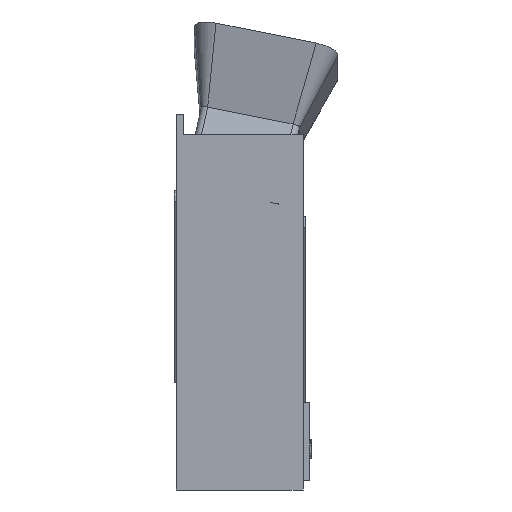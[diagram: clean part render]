
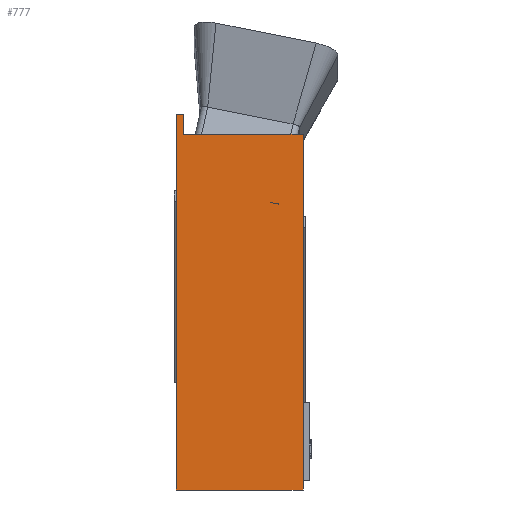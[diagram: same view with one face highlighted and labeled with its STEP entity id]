
A CAD part, left-side view. The second image highlights one B-rep face of the part: STEP entity #777.
In plain terms, the highlighted planar face has unit normal (-1, 0, 0).
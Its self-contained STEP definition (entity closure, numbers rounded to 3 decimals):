
#157 = PLANE('',#158);
#158 = AXIS2_PLACEMENT_3D('',#159,#160,#161);
#159 = CARTESIAN_POINT('',(0.,-8.99,0.));
#160 = DIRECTION('',(-0.,1.,0.));
#161 = DIRECTION('',(0.,0.,1.));
#213 = PLANE('',#214);
#214 = AXIS2_PLACEMENT_3D('',#215,#216,#217);
#215 = CARTESIAN_POINT('',(111.802,44.746,
    65.195));
#216 = DIRECTION('',(0.,-1.,0.));
#217 = DIRECTION('',(1.,0.,0.));
#463 = PLANE('',#464);
#464 = AXIS2_PLACEMENT_3D('',#465,#466,#467);
#465 = CARTESIAN_POINT('',(0.,-8.99,159.735));
#466 = DIRECTION('',(0.,0.,1.));
#467 = DIRECTION('',(1.,0.,-0.));
#706 = EDGE_CURVE('',#707,#709,#711,.T.);
#707 = VERTEX_POINT('',#708);
#708 = CARTESIAN_POINT('',(0.,-8.99,159.735));
#709 = VERTEX_POINT('',#710);
#710 = CARTESIAN_POINT('',(0.,44.746,159.735));
#711 = SURFACE_CURVE('',#712,(#716,#723),.PCURVE_S1.);
#712 = LINE('',#713,#714);
#713 = CARTESIAN_POINT('',(0.,-8.99,159.735));
#714 = VECTOR('',#715,1.);
#715 = DIRECTION('',(-0.,1.,0.));
#716 = PCURVE('',#463,#717);
#717 = DEFINITIONAL_REPRESENTATION('',(#718),#722);
#718 = LINE('',#719,#720);
#719 = CARTESIAN_POINT('',(0.,0.));
#720 = VECTOR('',#721,1.);
#721 = DIRECTION('',(0.,1.));
#722 = ( GEOMETRIC_REPRESENTATION_CONTEXT(2) 
PARAMETRIC_REPRESENTATION_CONTEXT() REPRESENTATION_CONTEXT('2D SPACE',''
  ) );
#723 = PCURVE('',#724,#729);
#724 = PLANE('',#725);
#725 = AXIS2_PLACEMENT_3D('',#726,#727,#728);
#726 = CARTESIAN_POINT('',(0.,44.746,168.491));
#727 = DIRECTION('',(-1.,-0.,-0.));
#728 = DIRECTION('',(0.,0.,-1.));
#729 = DEFINITIONAL_REPRESENTATION('',(#730),#734);
#730 = LINE('',#731,#732);
#731 = CARTESIAN_POINT('',(8.756,53.735));
#732 = VECTOR('',#733,1.);
#733 = DIRECTION('',(0.,-1.));
#734 = ( GEOMETRIC_REPRESENTATION_CONTEXT(2) 
PARAMETRIC_REPRESENTATION_CONTEXT() REPRESENTATION_CONTEXT('2D SPACE',''
  ) );
#777 = ADVANCED_FACE('',(#778),#724,.T.);
#778 = FACE_BOUND('',#779,.T.);
#779 = EDGE_LOOP('',(#780,#803,#804,#827,#855,#883));
#780 = ORIENTED_EDGE('',*,*,#781,.T.);
#781 = EDGE_CURVE('',#782,#707,#784,.T.);
#782 = VERTEX_POINT('',#783);
#783 = CARTESIAN_POINT('',(0.,-8.99,0.));
#784 = SURFACE_CURVE('',#785,(#789,#796),.PCURVE_S1.);
#785 = LINE('',#786,#787);
#786 = CARTESIAN_POINT('',(0.,-8.99,0.));
#787 = VECTOR('',#788,1.);
#788 = DIRECTION('',(0.,0.,1.));
#789 = PCURVE('',#724,#790);
#790 = DEFINITIONAL_REPRESENTATION('',(#791),#795);
#791 = LINE('',#792,#793);
#792 = CARTESIAN_POINT('',(168.491,53.735));
#793 = VECTOR('',#794,1.);
#794 = DIRECTION('',(-1.,0.));
#795 = ( GEOMETRIC_REPRESENTATION_CONTEXT(2) 
PARAMETRIC_REPRESENTATION_CONTEXT() REPRESENTATION_CONTEXT('2D SPACE',''
  ) );
#796 = PCURVE('',#157,#797);
#797 = DEFINITIONAL_REPRESENTATION('',(#798),#802);
#798 = LINE('',#799,#800);
#799 = CARTESIAN_POINT('',(0.,0.));
#800 = VECTOR('',#801,1.);
#801 = DIRECTION('',(1.,0.));
#802 = ( GEOMETRIC_REPRESENTATION_CONTEXT(2) 
PARAMETRIC_REPRESENTATION_CONTEXT() REPRESENTATION_CONTEXT('2D SPACE',''
  ) );
#803 = ORIENTED_EDGE('',*,*,#706,.T.);
#804 = ORIENTED_EDGE('',*,*,#805,.F.);
#805 = EDGE_CURVE('',#806,#709,#808,.T.);
#806 = VERTEX_POINT('',#807);
#807 = CARTESIAN_POINT('',(0.,44.746,168.491));
#808 = SURFACE_CURVE('',#809,(#813,#820),.PCURVE_S1.);
#809 = LINE('',#810,#811);
#810 = CARTESIAN_POINT('',(0.,44.746,168.491));
#811 = VECTOR('',#812,1.);
#812 = DIRECTION('',(0.,0.,-1.));
#813 = PCURVE('',#724,#814);
#814 = DEFINITIONAL_REPRESENTATION('',(#815),#819);
#815 = LINE('',#816,#817);
#816 = CARTESIAN_POINT('',(0.,0.));
#817 = VECTOR('',#818,1.);
#818 = DIRECTION('',(1.,0.));
#819 = ( GEOMETRIC_REPRESENTATION_CONTEXT(2) 
PARAMETRIC_REPRESENTATION_CONTEXT() REPRESENTATION_CONTEXT('2D SPACE',''
  ) );
#820 = PCURVE('',#213,#821);
#821 = DEFINITIONAL_REPRESENTATION('',(#822),#826);
#822 = LINE('',#823,#824);
#823 = CARTESIAN_POINT('',(-111.802,103.296));
#824 = VECTOR('',#825,1.);
#825 = DIRECTION('',(0.,-1.));
#826 = ( GEOMETRIC_REPRESENTATION_CONTEXT(2) 
PARAMETRIC_REPRESENTATION_CONTEXT() REPRESENTATION_CONTEXT('2D SPACE',''
  ) );
#827 = ORIENTED_EDGE('',*,*,#828,.T.);
#828 = EDGE_CURVE('',#806,#829,#831,.T.);
#829 = VERTEX_POINT('',#830);
#830 = CARTESIAN_POINT('',(0.,47.946,168.491));
#831 = SURFACE_CURVE('',#832,(#836,#843),.PCURVE_S1.);
#832 = LINE('',#833,#834);
#833 = CARTESIAN_POINT('',(0.,44.746,168.491));
#834 = VECTOR('',#835,1.);
#835 = DIRECTION('',(-0.,1.,-0.));
#836 = PCURVE('',#724,#837);
#837 = DEFINITIONAL_REPRESENTATION('',(#838),#842);
#838 = LINE('',#839,#840);
#839 = CARTESIAN_POINT('',(0.,0.));
#840 = VECTOR('',#841,1.);
#841 = DIRECTION('',(0.,-1.));
#842 = ( GEOMETRIC_REPRESENTATION_CONTEXT(2) 
PARAMETRIC_REPRESENTATION_CONTEXT() REPRESENTATION_CONTEXT('2D SPACE',''
  ) );
#843 = PCURVE('',#844,#849);
#844 = PLANE('',#845);
#845 = AXIS2_PLACEMENT_3D('',#846,#847,#848);
#846 = CARTESIAN_POINT('',(254.178,44.746,
    75.978));
#847 = DIRECTION('',(0.342,0.,0.94));
#848 = DIRECTION('',(-0.94,0.,0.342));
#849 = DEFINITIONAL_REPRESENTATION('',(#850),#854);
#850 = LINE('',#851,#852);
#851 = CARTESIAN_POINT('',(270.49,0.));
#852 = VECTOR('',#853,1.);
#853 = DIRECTION('',(0.,-1.));
#854 = ( GEOMETRIC_REPRESENTATION_CONTEXT(2) 
PARAMETRIC_REPRESENTATION_CONTEXT() REPRESENTATION_CONTEXT('2D SPACE',''
  ) );
#855 = ORIENTED_EDGE('',*,*,#856,.T.);
#856 = EDGE_CURVE('',#829,#857,#859,.T.);
#857 = VERTEX_POINT('',#858);
#858 = CARTESIAN_POINT('',(0.,47.946,0.));
#859 = SURFACE_CURVE('',#860,(#864,#871),.PCURVE_S1.);
#860 = LINE('',#861,#862);
#861 = CARTESIAN_POINT('',(0.,47.946,168.491));
#862 = VECTOR('',#863,1.);
#863 = DIRECTION('',(0.,0.,-1.));
#864 = PCURVE('',#724,#865);
#865 = DEFINITIONAL_REPRESENTATION('',(#866),#870);
#866 = LINE('',#867,#868);
#867 = CARTESIAN_POINT('',(0.,-3.2));
#868 = VECTOR('',#869,1.);
#869 = DIRECTION('',(1.,0.));
#870 = ( GEOMETRIC_REPRESENTATION_CONTEXT(2) 
PARAMETRIC_REPRESENTATION_CONTEXT() REPRESENTATION_CONTEXT('2D SPACE',''
  ) );
#871 = PCURVE('',#872,#877);
#872 = PLANE('',#873);
#873 = AXIS2_PLACEMENT_3D('',#874,#875,#876);
#874 = CARTESIAN_POINT('',(111.802,47.946,
    65.195));
#875 = DIRECTION('',(0.,-1.,0.));
#876 = DIRECTION('',(1.,0.,0.));
#877 = DEFINITIONAL_REPRESENTATION('',(#878),#882);
#878 = LINE('',#879,#880);
#879 = CARTESIAN_POINT('',(-111.802,103.296));
#880 = VECTOR('',#881,1.);
#881 = DIRECTION('',(0.,-1.));
#882 = ( GEOMETRIC_REPRESENTATION_CONTEXT(2) 
PARAMETRIC_REPRESENTATION_CONTEXT() REPRESENTATION_CONTEXT('2D SPACE',''
  ) );
#883 = ORIENTED_EDGE('',*,*,#884,.T.);
#884 = EDGE_CURVE('',#857,#782,#885,.T.);
#885 = SURFACE_CURVE('',#886,(#890,#897),.PCURVE_S1.);
#886 = LINE('',#887,#888);
#887 = CARTESIAN_POINT('',(0.,47.946,0.));
#888 = VECTOR('',#889,1.);
#889 = DIRECTION('',(0.,-1.,0.));
#890 = PCURVE('',#724,#891);
#891 = DEFINITIONAL_REPRESENTATION('',(#892),#896);
#892 = LINE('',#893,#894);
#893 = CARTESIAN_POINT('',(168.491,-3.2));
#894 = VECTOR('',#895,1.);
#895 = DIRECTION('',(0.,1.));
#896 = ( GEOMETRIC_REPRESENTATION_CONTEXT(2) 
PARAMETRIC_REPRESENTATION_CONTEXT() REPRESENTATION_CONTEXT('2D SPACE',''
  ) );
#897 = PCURVE('',#898,#903);
#898 = PLANE('',#899);
#899 = AXIS2_PLACEMENT_3D('',#900,#901,#902);
#900 = CARTESIAN_POINT('',(0.,-8.99,0.));
#901 = DIRECTION('',(0.,0.,1.));
#902 = DIRECTION('',(1.,0.,-0.));
#903 = DEFINITIONAL_REPRESENTATION('',(#904),#908);
#904 = LINE('',#905,#906);
#905 = CARTESIAN_POINT('',(0.,56.935));
#906 = VECTOR('',#907,1.);
#907 = DIRECTION('',(0.,-1.));
#908 = ( GEOMETRIC_REPRESENTATION_CONTEXT(2) 
PARAMETRIC_REPRESENTATION_CONTEXT() REPRESENTATION_CONTEXT('2D SPACE',''
  ) );
